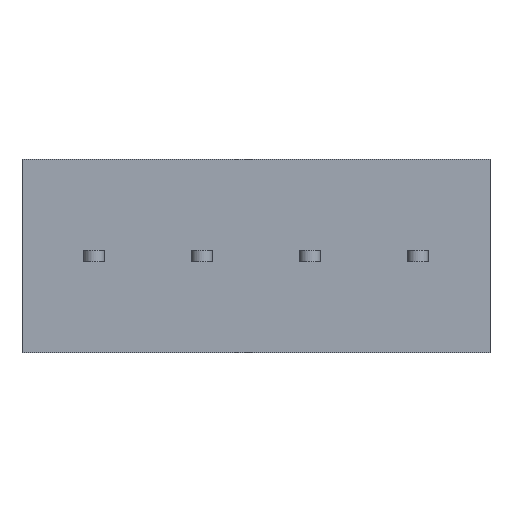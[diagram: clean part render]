
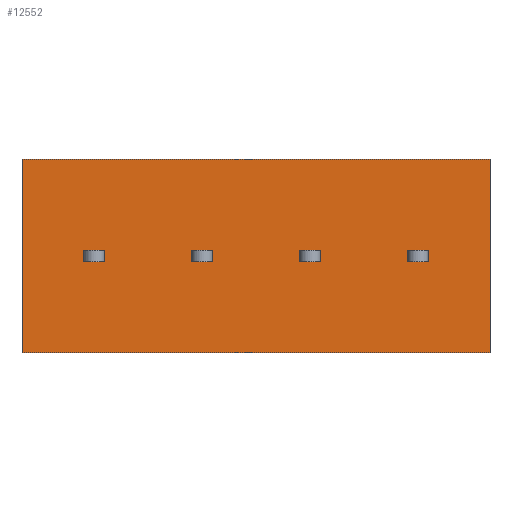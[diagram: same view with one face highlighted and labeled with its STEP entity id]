
A CAD part, front view. The second image highlights one B-rep face of the part: STEP entity #12552.
In plain terms, the highlighted planar face has unit normal (0, -1, 0).
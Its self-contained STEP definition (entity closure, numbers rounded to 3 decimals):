
#839=VERTEX_POINT('',#16756);
#840=VERTEX_POINT('',#16757);
#843=VERTEX_POINT('',#16765);
#871=VERTEX_POINT('',#16836);
#1014=VERTEX_POINT('',#17303);
#1015=VERTEX_POINT('',#17304);
#1016=VERTEX_POINT('',#17309);
#1017=VERTEX_POINT('',#17313);
#1034=VERTEX_POINT('',#17364);
#1035=VERTEX_POINT('',#17365);
#1051=VERTEX_POINT('',#17401);
#1052=VERTEX_POINT('',#17402);
#1053=VERTEX_POINT('',#17404);
#1054=VERTEX_POINT('',#17406);
#1055=VERTEX_POINT('',#17409);
#1056=VERTEX_POINT('',#17410);
#1057=VERTEX_POINT('',#17412);
#1058=VERTEX_POINT('',#17414);
#1059=VERTEX_POINT('',#17417);
#1060=VERTEX_POINT('',#17418);
#2143=VECTOR('',#14077,1.);
#2146=VECTOR('',#14083,1.);
#2172=VECTOR('',#14138,1.);
#2174=VECTOR('',#14141,1.);
#2316=VECTOR('',#14503,1.);
#2319=VECTOR('',#14507,1.);
#2321=VECTOR('',#14510,1.);
#2323=VECTOR('',#14513,1.);
#2340=VECTOR('',#14553,1.);
#2359=VECTOR('',#14573,1.);
#2360=VECTOR('',#14574,1.);
#2361=VECTOR('',#14575,1.);
#2362=VECTOR('',#14576,1.);
#2363=VECTOR('',#14577,1.);
#2364=VECTOR('',#14578,1.);
#2365=VECTOR('',#14579,1.);
#2366=VECTOR('',#14580,1.);
#2367=VECTOR('',#14581,1.);
#2368=VECTOR('',#14582,1.);
#2369=VECTOR('',#14583,1.);
#3559=LINE('',#16755,#2143);
#3562=LINE('',#16764,#2146);
#3588=LINE('',#16835,#2172);
#3590=LINE('',#16839,#2174);
#3732=LINE('',#17302,#2316);
#3735=LINE('',#17308,#2319);
#3737=LINE('',#17312,#2321);
#3739=LINE('',#17316,#2323);
#3756=LINE('',#17363,#2340);
#3775=LINE('',#17400,#2359);
#3776=LINE('',#17403,#2360);
#3777=LINE('',#17405,#2361);
#3778=LINE('',#17407,#2362);
#3779=LINE('',#17408,#2363);
#3780=LINE('',#17411,#2364);
#3781=LINE('',#17413,#2365);
#3782=LINE('',#17415,#2366);
#3783=LINE('',#17416,#2367);
#3784=LINE('',#17419,#2368);
#3785=LINE('',#17420,#2369);
#4975=EDGE_CURVE('',#839,#840,#3559,.T.);
#4979=EDGE_CURVE('',#840,#843,#3562,.T.);
#5014=EDGE_CURVE('',#871,#839,#3588,.T.);
#5016=EDGE_CURVE('',#843,#871,#3590,.T.);
#5227=EDGE_CURVE('',#1014,#1015,#3732,.T.);
#5230=EDGE_CURVE('',#1016,#1014,#3735,.T.);
#5232=EDGE_CURVE('',#1015,#1017,#3737,.T.);
#5234=EDGE_CURVE('',#1017,#1016,#3739,.T.);
#5257=EDGE_CURVE('',#1034,#1035,#3756,.T.);
#5276=EDGE_CURVE('',#1051,#1052,#3775,.T.);
#5277=EDGE_CURVE('',#1052,#1053,#3776,.T.);
#5278=EDGE_CURVE('',#1053,#1054,#3777,.T.);
#5279=EDGE_CURVE('',#1054,#1051,#3778,.T.);
#5280=EDGE_CURVE('',#1055,#1056,#3779,.T.);
#5281=EDGE_CURVE('',#1056,#1057,#3780,.T.);
#5282=EDGE_CURVE('',#1057,#1058,#3781,.T.);
#5283=EDGE_CURVE('',#1058,#1055,#3782,.T.);
#5284=EDGE_CURVE('',#1059,#1060,#3783,.T.);
#5285=EDGE_CURVE('',#1060,#1035,#3784,.T.);
#5286=EDGE_CURVE('',#1059,#1034,#3785,.T.);
#7432=ORIENTED_EDGE('',*,*,#5276,.T.);
#7433=ORIENTED_EDGE('',*,*,#5277,.T.);
#7434=ORIENTED_EDGE('',*,*,#5278,.T.);
#7435=ORIENTED_EDGE('',*,*,#5279,.T.);
#7436=ORIENTED_EDGE('',*,*,#4975,.T.);
#7437=ORIENTED_EDGE('',*,*,#4979,.T.);
#7438=ORIENTED_EDGE('',*,*,#5016,.T.);
#7439=ORIENTED_EDGE('',*,*,#5014,.T.);
#7440=ORIENTED_EDGE('',*,*,#5280,.T.);
#7441=ORIENTED_EDGE('',*,*,#5281,.T.);
#7442=ORIENTED_EDGE('',*,*,#5282,.T.);
#7443=ORIENTED_EDGE('',*,*,#5283,.T.);
#7444=ORIENTED_EDGE('',*,*,#5227,.F.);
#7445=ORIENTED_EDGE('',*,*,#5230,.F.);
#7446=ORIENTED_EDGE('',*,*,#5234,.F.);
#7447=ORIENTED_EDGE('',*,*,#5232,.F.);
#7448=ORIENTED_EDGE('',*,*,#5284,.T.);
#7449=ORIENTED_EDGE('',*,*,#5285,.T.);
#7450=ORIENTED_EDGE('',*,*,#5257,.F.);
#7451=ORIENTED_EDGE('',*,*,#5286,.F.);
#10921=EDGE_LOOP('',(#7432,#7433,#7434,#7435));
#10922=EDGE_LOOP('',(#7436,#7437,#7438,#7439));
#10923=EDGE_LOOP('',(#7440,#7441,#7442,#7443));
#10924=EDGE_LOOP('',(#7444,#7445,#7446,#7447));
#10925=EDGE_LOOP('',(#7448,#7449,#7450,#7451));
#11741=FACE_BOUND('',#10921,.T.);
#11742=FACE_BOUND('',#10922,.T.);
#11743=FACE_BOUND('',#10923,.T.);
#11744=FACE_BOUND('',#10924,.T.);
#11745=FACE_BOUND('',#10925,.T.);
#12552=ADVANCED_FACE('',(#11741,#11742,#11743,#11744,#11745),#21836,.T.);
#13370=AXIS2_PLACEMENT_3D('',#17399,#14572,$);
#14077=DIRECTION('',(1.,0.,0.));
#14083=DIRECTION('',(0.,0.,-1.));
#14138=DIRECTION('',(0.,0.,1.));
#14141=DIRECTION('',(-1.,0.,0.));
#14503=DIRECTION('',(-1.,0.,0.));
#14507=DIRECTION('',(0.,0.,1.));
#14510=DIRECTION('',(0.,0.,-1.));
#14513=DIRECTION('',(1.,0.,0.));
#14553=DIRECTION('',(1.,0.,0.));
#14572=DIRECTION('',(0.,-1.,0.));
#14573=DIRECTION('',(1.,0.,0.));
#14574=DIRECTION('',(0.,0.,-1.));
#14575=DIRECTION('',(-1.,0.,0.));
#14576=DIRECTION('',(0.,0.,1.));
#14577=DIRECTION('',(1.,0.,0.));
#14578=DIRECTION('',(0.,0.,-1.));
#14579=DIRECTION('',(-1.,0.,0.));
#14580=DIRECTION('',(0.,0.,1.));
#14581=DIRECTION('',(1.,0.,0.));
#14582=DIRECTION('',(0.,0.,1.));
#14583=DIRECTION('',(0.,0.,1.));
#16755=CARTESIAN_POINT('',(11.775,0.,0.5));
#16756=CARTESIAN_POINT('',(23.55,0.,0.5));
#16757=CARTESIAN_POINT('',(25.35,0.,0.5));
#16764=CARTESIAN_POINT('',(25.35,0.,1.75));
#16765=CARTESIAN_POINT('',(25.35,0.,-0.5));
#16835=CARTESIAN_POINT('',(23.55,0.,1.75));
#16836=CARTESIAN_POINT('',(23.55,0.,-0.5));
#16839=CARTESIAN_POINT('',(11.775,0.,-0.5));
#17302=CARTESIAN_POINT('',(3.425,0.,0.5));
#17303=CARTESIAN_POINT('',(6.35,0.,0.5));
#17304=CARTESIAN_POINT('',(4.55,0.,0.5));
#17308=CARTESIAN_POINT('',(6.35,0.,1.75));
#17309=CARTESIAN_POINT('',(6.35,0.,-0.5));
#17312=CARTESIAN_POINT('',(4.55,0.,1.75));
#17313=CARTESIAN_POINT('',(4.55,0.,-0.5));
#17316=CARTESIAN_POINT('',(3.425,0.,-0.5));
#17363=CARTESIAN_POINT('',(-0.9,0.,8.5));
#17364=CARTESIAN_POINT('',(-0.9,0.,8.5));
#17365=CARTESIAN_POINT('',(40.3,0.,8.5));
#17399=CARTESIAN_POINT('',(-0.9,0.,0.));
#17400=CARTESIAN_POINT('',(16.525,0.,0.5));
#17401=CARTESIAN_POINT('',(33.05,0.,0.5));
#17402=CARTESIAN_POINT('',(34.85,0.,0.5));
#17403=CARTESIAN_POINT('',(34.85,0.,1.75));
#17404=CARTESIAN_POINT('',(34.85,0.,-0.5));
#17405=CARTESIAN_POINT('',(16.525,0.,-0.5));
#17406=CARTESIAN_POINT('',(33.05,0.,-0.5));
#17407=CARTESIAN_POINT('',(33.05,0.,1.75));
#17408=CARTESIAN_POINT('',(7.025,0.,0.5));
#17409=CARTESIAN_POINT('',(14.05,0.,0.5));
#17410=CARTESIAN_POINT('',(15.85,0.,0.5));
#17411=CARTESIAN_POINT('',(15.85,0.,1.75));
#17412=CARTESIAN_POINT('',(15.85,0.,-0.5));
#17413=CARTESIAN_POINT('',(7.025,0.,-0.5));
#17414=CARTESIAN_POINT('',(14.05,0.,-0.5));
#17415=CARTESIAN_POINT('',(14.05,0.,1.75));
#17416=CARTESIAN_POINT('',(-0.9,0.,-8.5));
#17417=CARTESIAN_POINT('',(-0.9,0.,-8.5));
#17418=CARTESIAN_POINT('',(40.3,0.,-8.5));
#17419=CARTESIAN_POINT('',(40.3,0.,-8.5));
#17420=CARTESIAN_POINT('',(-0.9,0.,-8.5));
#21836=PLANE('',#13370);
